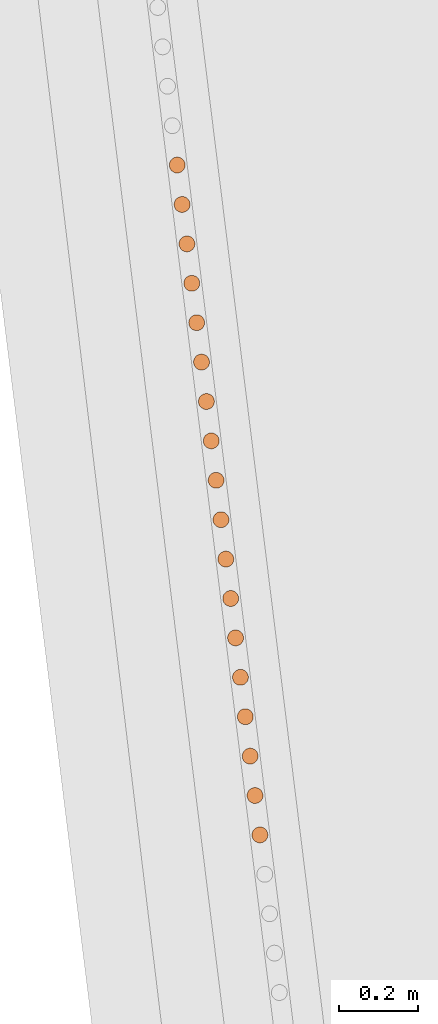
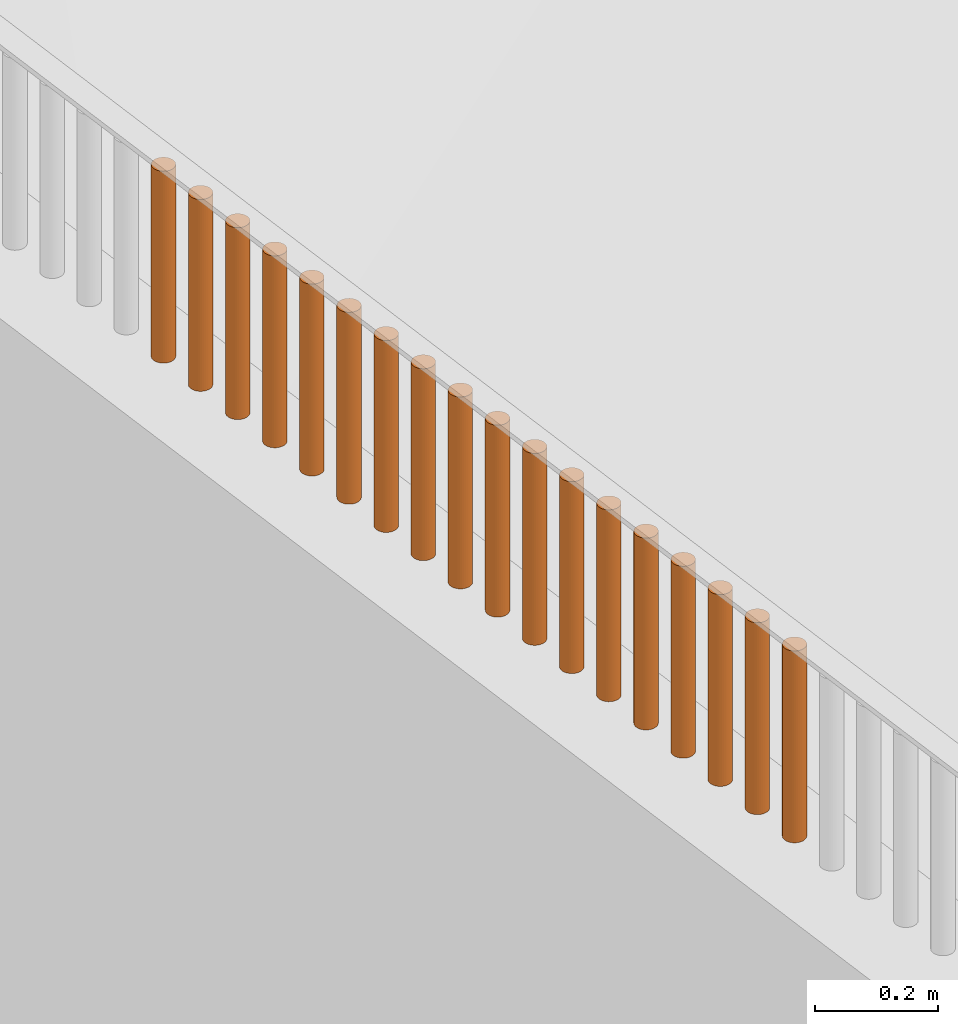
# One storey, part 224 of 1809: 18 proxies, 1 element without a shape of its own.
"""IFC2X3 building model written with IfcOpenShell, lengths in millimetres."""

from ifc_helpers import new_model, entity, si_unit, converted_unit, derived_unit, money_unit, direction, frame, origin_with_axes, place, context, subcontext, project, spatial, faceted_brep, source, transform, mapped, material, type_object, element, aggregate, save


model = new_model("IFC2X3")

# Units and contexts
model_context = context("Model", 3, precision=0.01, world=origin_with_axes(), true_north=direction((0.0, 1.0)))
body_context = subcontext(model_context, "Body", "Model", "MODEL_VIEW")
ifc_project = project(units=[si_unit("LENGTHUNIT", "METRE", prefix="MILLI"), si_unit("AREAUNIT", "SQUARE_METRE"), si_unit("VOLUMEUNIT", "CUBIC_METRE"), converted_unit("PLANEANGLEUNIT", "DEGREE", entity("IfcPlaneAngleMeasure", 0.0174532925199), si_unit("PLANEANGLEUNIT", "RADIAN"), dimensions=[0, 0, 0, 0, 0, 0, 0]), si_unit("SOLIDANGLEUNIT", "STERADIAN"), money_unit("EUR"), converted_unit("TIMEUNIT", "Year", entity("IfcTimeMeasure", 31556926.0), si_unit("TIMEUNIT", "SECOND"), dimensions=[0, 0, 1, 0, 0, 0, 0]), si_unit("MASSUNIT", "GRAM", prefix="KILO"), si_unit("THERMODYNAMICTEMPERATUREUNIT", "DEGREE_CELSIUS"), si_unit("LUMINOUSINTENSITYUNIT", "LUMEN"), si_unit("ENERGYUNIT", "JOULE", prefix="MEGA"), derived_unit("THERMALCONDUCTANCEUNIT", [(si_unit("POWERUNIT", "WATT"), 1), (si_unit("LENGTHUNIT", "METRE"), -1), (si_unit("THERMODYNAMICTEMPERATUREUNIT", "KELVIN"), -1)]), derived_unit("SPECIFICHEATCAPACITYUNIT", [(si_unit("ENERGYUNIT", "JOULE"), 1), (si_unit("MASSUNIT", "GRAM", prefix="KILO"), -1), (si_unit("THERMODYNAMICTEMPERATUREUNIT", "KELVIN"), -1)]), derived_unit("MASSDENSITYUNIT", [(si_unit("MASSUNIT", "GRAM", prefix="KILO"), 1), (si_unit("VOLUMEUNIT", "CUBIC_METRE"), -1)])], contexts=[model_context])

# Site, building, storey
site_placement = place(None, origin_with_axes())
site = spatial("IfcSite", under=ifc_project, at=site_placement, Name="Politse- ja Piirivalveameti ning Päästeameti ühishoone", CompositionType="ELEMENT")
building_placement = place(site_placement, origin_with_axes())
building = spatial("IfcBuilding", under=site, at=building_placement, Name="Politse- ja Piirivalveameti ning Päästeameti ühishoone", CompositionType="ELEMENT")
storey_placement = place(building_placement, origin_with_axes())
storey = spatial("IfcBuildingStorey", under=building, at=storey_placement, Name="Esimene korrus", CompositionType="ELEMENT", Elevation=0.0)

# Proxies
building_element_proxy_type_1 = type_object("IfcBuildingElementProxyType", Name="Railing Type", PredefinedType="NOTDEFINED")
proxy_1_placement = place(storey_placement, frame((-18956.5522504, -53688.4757966, 2100.0), z_axis=(0.0, 0.0, 1.0), x_axis=(1.0, 0.0, 0.0)))
proxy_1 = element("IfcBuildingElementProxy", 1, at=proxy_1_placement, inside=storey, type_object=building_element_proxy_type_1, Name="PIIRDEAED")
ifc_material = material(Name="ET-06_Teras - Konstruktsioon")
building_element_proxy_type_2 = type_object("IfcBuildingElementProxyType", Name="IfcBuildingElementProxy", PredefinedType="NOTDEFINED")
shared_shape_1 = source(origin_with_axes(), body_context, "Body", "Brep", [
    faceted_brep([(0.0, -20.0, 0.0), (3.47296355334, -19.6961550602, 0.0), (3.47296355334, -19.6961550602, 380.000012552), (0.0, -20.0, 380.000012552), (-3.47296355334, -19.6961550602, 0.0), (-6.84040286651, -18.7938524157, 0.0), (-10.0, -17.3205080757, 0.0), (-12.8557521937, -15.3208888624, 0.0), (-15.3208888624, -12.8557521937, 0.0), (-17.3205080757, -10.0, 0.0), (-18.7938524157, -6.84040286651, 0.0), (-19.6961550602, -3.47296355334, 0.0), (-20.0, 0.0, 0.0), (-19.6961550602, 3.47296355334, 0.0), (-18.7938524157, 6.84040286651, 0.0), (-17.3205080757, 10.0, 0.0), (-15.3208888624, 12.8557521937, 0.0), (-12.8557521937, 15.3208888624, 0.0), (-10.0, 17.3205080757, 0.0), (-6.84040286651, 18.7938524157, 0.0), (-3.47296355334, 19.6961550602, 0.0), (0.0, 20.0, 0.0), (3.47296355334, 19.6961550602, 0.0), (6.84040286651, 18.7938524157, 0.0), (10.0, 17.3205080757, 0.0), (12.8557521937, 15.3208888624, 0.0), (15.3208888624, 12.8557521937, 0.0), (17.3205080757, 10.0, 0.0), (18.7938524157, 6.84040286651, 0.0), (19.6961550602, 3.47296355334, 0.0), (20.0, 0.0, 0.0), (19.6961550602, -3.47296355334, 0.0), (18.7938524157, -6.84040286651, 0.0), (17.3205080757, -10.0, 0.0), (15.3208888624, -12.8557521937, 0.0), (12.8557521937, -15.3208888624, 0.0), (10.0, -17.3205080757, 0.0), (6.84040286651, -18.7938524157, 0.0), (6.84040286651, -18.7938524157, 380.000012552), (10.0, -17.3205080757, 380.000012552), (12.8557521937, -15.3208888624, 380.000012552), (15.3208888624, -12.8557521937, 380.000012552), (17.3205080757, -10.0, 380.000012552), (18.7938524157, -6.84040286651, 380.000012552), (19.6961550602, -3.47296355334, 380.000012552), (20.0, 0.0, 380.000012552), (19.6961550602, 3.47296355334, 380.000012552), (18.7938524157, 6.84040286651, 380.000012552), (17.3205080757, 10.0, 380.000012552), (15.3208888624, 12.8557521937, 380.000012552), (12.8557521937, 15.3208888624, 380.000012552), (10.0, 17.3205080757, 380.000012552), (6.84040286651, 18.7938524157, 380.000012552), (3.47296355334, 19.6961550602, 380.000012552), (0.0, 20.0, 380.000012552), (-3.47296355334, 19.6961550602, 380.000012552), (-6.84040286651, 18.7938524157, 380.000012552), (-10.0, 17.3205080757, 380.000012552), (-12.8557521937, 15.3208888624, 380.000012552), (-15.3208888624, 12.8557521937, 380.000012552), (-17.3205080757, 10.0, 380.000012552), (-18.7938524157, 6.84040286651, 380.000012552), (-19.6961550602, 3.47296355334, 380.000012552), (-20.0, 0.0, 380.000012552), (-19.6961550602, -3.47296355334, 380.000012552), (-18.7938524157, -6.84040286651, 380.000012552), (-17.3205080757, -10.0, 380.000012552), (-15.3208888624, -12.8557521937, 380.000012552), (-12.8557521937, -15.3208888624, 380.000012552), (-10.0, -17.3205080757, 380.000012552), (-6.84040286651, -18.7938524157, 380.000012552), (-3.47296355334, -19.6961550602, 380.000012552)], [[[0, 1, 2, 3]], [[0, 4, 5, 6, 7, 8, 9, 10, 11, 12, 13, 14, 15, 16, 17, 18, 19, 20, 21, 22, 23, 24, 25, 26, 27, 28, 29, 30, 31, 32, 33, 34, 35, 36, 37, 1]], [[1, 37, 38, 2]], [[3, 2, 38, 39, 40, 41, 42, 43, 44, 45, 46, 47, 48, 49, 50, 51, 52, 53, 54, 55, 56, 57, 58, 59, 60, 61, 62, 63, 64, 65, 66, 67, 68, 69, 70, 71]], [[4, 0, 3, 71]], [[5, 4, 71, 70]], [[6, 5, 70, 69]], [[7, 6, 69, 68]], [[8, 7, 68, 67]], [[9, 8, 67, 66]], [[10, 9, 66, 65]], [[11, 10, 65, 64]], [[12, 11, 64, 63]], [[13, 12, 63, 62]], [[14, 13, 62, 61]], [[15, 14, 61, 60]], [[16, 15, 60, 59]], [[17, 16, 59, 58]], [[18, 17, 58, 57]], [[19, 18, 57, 56]], [[20, 19, 56, 55]], [[21, 20, 55, 54]], [[22, 21, 54, 53]], [[23, 22, 53, 52]], [[24, 23, 52, 51]], [[25, 24, 51, 50]], [[26, 25, 50, 49]], [[27, 26, 49, 48]], [[28, 27, 48, 47]], [[29, 28, 47, 46]], [[30, 29, 46, 45]], [[31, 30, 45, 44]], [[32, 31, 44, 43]], [[33, 32, 43, 42]], [[34, 33, 42, 41]], [[35, 34, 41, 40]], [[36, 35, 40, 39]], [[37, 36, 39, 38]]]),
])
proxy_2_placement = place(proxy_1_placement, frame((-5175.82038167, 41098.0201867, -1.25517001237e-05), z_axis=(0.0, 0.0, 1.0), x_axis=(1.0, 0.0, 0.0)))
proxy_2 = element("IfcBuildingElementProxy", 2, at=proxy_2_placement, type_object=building_element_proxy_type_2, material=ifc_material, Name="BALUSTER - 001", context=body_context, shape_type="MappedRepresentation", body=[
    mapped(shared_shape_1, transform((0.0, 0.0, 0.0), x_axis=(0.992468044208, 0.122503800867, 0.0), y_axis=(-0.122503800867, 0.992468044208, 0.0), z_axis=(0.0, 0.0, 1.0))),
])
proxy_3_placement = place(proxy_1_placement, frame((-5200.31579149, 41296.4704495, -1.25517001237e-05), z_axis=(0.0, 0.0, 1.0), x_axis=(1.0, 0.0, 0.0)))
proxy_3 = element("IfcBuildingElementProxy", 3, at=proxy_3_placement, type_object=building_element_proxy_type_2, material=ifc_material, Name="BALUSTER - 001", context=body_context, shape_type="MappedRepresentation", body=[
    mapped(shared_shape_1, transform((0.0, 0.0, 0.0), x_axis=(0.992468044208, 0.122503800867, 0.0), y_axis=(-0.122503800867, 0.992468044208, 0.0), z_axis=(0.0, 0.0, 1.0))),
])
proxy_4_placement = place(proxy_1_placement, frame((-5212.56349641, 41395.6955809, -1.25517001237e-05), z_axis=(0.0, 0.0, 1.0), x_axis=(1.0, 0.0, 0.0)))
proxy_4 = element("IfcBuildingElementProxy", 4, at=proxy_4_placement, type_object=building_element_proxy_type_2, material=ifc_material, Name="BALUSTER - 001", context=body_context, shape_type="MappedRepresentation", body=[
    mapped(shared_shape_1, transform((0.0, 0.0, 0.0), x_axis=(0.992468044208, 0.122503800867, 0.0), y_axis=(-0.122503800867, 0.992468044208, 0.0), z_axis=(0.0, 0.0, 1.0))),
])
proxy_5_placement = place(proxy_1_placement, frame((-5224.81120132, 41494.9207124, -1.25517001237e-05), z_axis=(0.0, 0.0, 1.0), x_axis=(1.0, 0.0, 0.0)))
proxy_5 = element("IfcBuildingElementProxy", 5, at=proxy_5_placement, type_object=building_element_proxy_type_2, material=ifc_material, Name="BALUSTER - 001", context=body_context, shape_type="MappedRepresentation", body=[
    mapped(shared_shape_1, transform((0.0, 0.0, 0.0), x_axis=(0.992468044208, 0.122503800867, 0.0), y_axis=(-0.122503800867, 0.992468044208, 0.0), z_axis=(0.0, 0.0, 1.0))),
])
proxy_6_placement = place(proxy_1_placement, frame((-5249.30661115, 41693.3709752, -1.25517001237e-05), z_axis=(0.0, 0.0, 1.0), x_axis=(1.0, 0.0, 0.0)))
proxy_6 = element("IfcBuildingElementProxy", 6, at=proxy_6_placement, type_object=building_element_proxy_type_2, material=ifc_material, Name="BALUSTER - 001", context=body_context, shape_type="MappedRepresentation", body=[
    mapped(shared_shape_1, transform((0.0, 0.0, 0.0), x_axis=(0.992468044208, 0.122503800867, 0.0), y_axis=(-0.122503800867, 0.992468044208, 0.0), z_axis=(0.0, 0.0, 1.0))),
])
proxy_7_placement = place(proxy_1_placement, frame((-5273.80202097, 41891.8212381, -1.25517001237e-05), z_axis=(0.0, 0.0, 1.0), x_axis=(1.0, 0.0, 0.0)))
proxy_7 = element("IfcBuildingElementProxy", 7, at=proxy_7_placement, type_object=building_element_proxy_type_2, material=ifc_material, Name="BALUSTER - 001", context=body_context, shape_type="MappedRepresentation", body=[
    mapped(shared_shape_1, transform((0.0, 0.0, 0.0), x_axis=(0.992468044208, 0.122503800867, 0.0), y_axis=(-0.122503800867, 0.992468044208, 0.0), z_axis=(0.0, 0.0, 1.0))),
])
proxy_8_placement = place(proxy_1_placement, frame((-5298.2974308, 42090.2715009, -1.25517001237e-05), z_axis=(0.0, 0.0, 1.0), x_axis=(1.0, 0.0, 0.0)))
proxy_8 = element("IfcBuildingElementProxy", 8, at=proxy_8_placement, type_object=building_element_proxy_type_2, material=ifc_material, Name="BALUSTER - 001", context=body_context, shape_type="MappedRepresentation", body=[
    mapped(shared_shape_1, transform((0.0, 0.0, 0.0), x_axis=(0.992468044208, 0.122503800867, 0.0), y_axis=(-0.122503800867, 0.992468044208, 0.0), z_axis=(0.0, 0.0, 1.0))),
])
shared_shape_2 = source(origin_with_axes(), body_context, "Body", "Brep", [
    faceted_brep([(0.0, -20.0, 0.0), (3.47296355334, -19.6961550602, 0.0), (3.47296355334, -19.6961550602, 380.000012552), (0.0, -20.0, 380.000012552), (-3.47296355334, -19.6961550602, 0.0), (-6.84040286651, -18.7938524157, 0.0), (-10.0, -17.3205080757, 0.0), (-12.8557521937, -15.3208888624, 0.0), (-15.3208888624, -12.8557521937, 0.0), (-17.3205080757, -10.0, 0.0), (-18.7938524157, -6.84040286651, 0.0), (-19.6961550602, -3.47296355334, 0.0), (-20.0, 0.0, 0.0), (-19.6961550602, 3.47296355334, 0.0), (-18.7938524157, 6.84040286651, 0.0), (-17.3205080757, 10.0, 0.0), (-15.3208888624, 12.8557521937, 0.0), (-12.8557521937, 15.3208888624, 0.0), (-10.0, 17.3205080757, 0.0), (-6.84040286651, 18.7938524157, 0.0), (-3.47296355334, 19.6961550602, 0.0), (0.0, 20.0, 0.0), (3.47296355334, 19.6961550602, 0.0), (6.84040286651, 18.7938524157, 0.0), (10.0, 17.3205080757, 0.0), (12.8557521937, 15.3208888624, 0.0), (15.3208888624, 12.8557521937, 0.0), (17.3205080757, 10.0, 0.0), (18.7938524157, 6.84040286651, 0.0), (19.6961550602, 3.47296355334, 0.0), (20.0, 0.0, 0.0), (19.6961550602, -3.47296355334, 0.0), (18.7938524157, -6.84040286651, 0.0), (17.3205080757, -10.0, 0.0), (15.3208888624, -12.8557521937, 0.0), (12.8557521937, -15.3208888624, 0.0), (10.0, -17.3205080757, 0.0), (6.84040286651, -18.7938524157, 0.0), (6.84040286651, -18.7938524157, 380.000012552), (10.0, -17.3205080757, 380.000012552), (12.8557521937, -15.3208888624, 380.000012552), (15.3208888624, -12.8557521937, 380.000012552), (17.3205080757, -10.0, 380.000012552), (18.7938524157, -6.84040286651, 380.000012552), (19.6961550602, -3.47296355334, 380.000012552), (20.0, 0.0, 380.000012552), (19.6961550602, 3.47296355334, 380.000012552), (18.7938524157, 6.84040286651, 380.000012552), (17.3205080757, 10.0, 380.000012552), (15.3208888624, 12.8557521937, 380.000012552), (12.8557521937, 15.3208888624, 380.000012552), (10.0, 17.3205080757, 380.000012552), (6.84040286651, 18.7938524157, 380.000012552), (3.47296355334, 19.6961550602, 380.000012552), (0.0, 20.0, 380.000012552), (-3.47296355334, 19.6961550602, 380.000012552), (-6.84040286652, 18.7938524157, 380.000012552), (-10.0, 17.3205080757, 380.000012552), (-12.8557521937, 15.3208888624, 380.000012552), (-15.3208888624, 12.8557521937, 380.000012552), (-17.3205080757, 10.0, 380.000012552), (-18.7938524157, 6.84040286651, 380.000012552), (-19.6961550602, 3.47296355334, 380.000012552), (-20.0, 0.0, 380.000012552), (-19.6961550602, -3.47296355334, 380.000012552), (-18.7938524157, -6.84040286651, 380.000012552), (-17.3205080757, -10.0, 380.000012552), (-15.3208888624, -12.8557521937, 380.000012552), (-12.8557521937, -15.3208888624, 380.000012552), (-10.0, -17.3205080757, 380.000012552), (-6.84040286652, -18.7938524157, 380.000012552), (-3.47296355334, -19.6961550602, 380.000012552)], [[[0, 1, 2, 3]], [[0, 4, 5, 6, 7, 8, 9, 10, 11, 12, 13, 14, 15, 16, 17, 18, 19, 20, 21, 22, 23, 24, 25, 26, 27, 28, 29, 30, 31, 32, 33, 34, 35, 36, 37, 1]], [[1, 37, 38, 2]], [[3, 2, 38, 39, 40, 41, 42, 43, 44, 45, 46, 47, 48, 49, 50, 51, 52, 53, 54, 55, 56, 57, 58, 59, 60, 61, 62, 63, 64, 65, 66, 67, 68, 69, 70, 71]], [[4, 0, 3, 71]], [[5, 4, 71, 70]], [[6, 5, 70, 69]], [[7, 6, 69, 68]], [[8, 7, 68, 67]], [[9, 8, 67, 66]], [[10, 9, 66, 65]], [[11, 10, 65, 64]], [[12, 11, 64, 63]], [[13, 12, 63, 62]], [[14, 13, 62, 61]], [[15, 14, 61, 60]], [[16, 15, 60, 59]], [[17, 16, 59, 58]], [[18, 17, 58, 57]], [[19, 18, 57, 56]], [[20, 19, 56, 55]], [[21, 20, 55, 54]], [[22, 21, 54, 53]], [[23, 22, 53, 52]], [[24, 23, 52, 51]], [[25, 24, 51, 50]], [[26, 25, 50, 49]], [[27, 26, 49, 48]], [[28, 27, 48, 47]], [[29, 28, 47, 46]], [[30, 29, 46, 45]], [[31, 30, 45, 44]], [[32, 31, 44, 43]], [[33, 32, 43, 42]], [[34, 33, 42, 41]], [[35, 34, 41, 40]], [[36, 35, 40, 39]], [[37, 36, 39, 38]]]),
])
proxy_9_placement = place(proxy_1_placement, frame((-5102.33415219, 40502.6693981, -1.25517001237e-05), z_axis=(0.0, 0.0, 1.0), x_axis=(1.0, 0.0, 0.0)))
proxy_9 = element("IfcBuildingElementProxy", 9, at=proxy_9_placement, type_object=building_element_proxy_type_2, material=ifc_material, Name="BALUSTER - 001", context=body_context, shape_type="MappedRepresentation", body=[
    mapped(shared_shape_2, transform((0.0, 0.0, 0.0), x_axis=(0.992468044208, 0.122503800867, 0.0), y_axis=(-0.122503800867, 0.992468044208, 0.0), z_axis=(0.0, 0.0, 1.0))),
])
proxy_10_placement = place(proxy_1_placement, frame((-5151.32497184, 40899.5699238, -1.25517001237e-05), z_axis=(0.0, 0.0, 1.0), x_axis=(1.0, 0.0, 0.0)))
proxy_10 = element("IfcBuildingElementProxy", 10, at=proxy_10_placement, type_object=building_element_proxy_type_2, material=ifc_material, Name="BALUSTER - 001", context=body_context, shape_type="MappedRepresentation", body=[
    mapped(shared_shape_2, transform((0.0, 0.0, 0.0), x_axis=(0.992468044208, 0.122503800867, 0.0), y_axis=(-0.122503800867, 0.992468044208, 0.0), z_axis=(0.0, 0.0, 1.0))),
])
proxy_11_placement = place(proxy_1_placement, frame((-5237.05890623, 41594.1458438, -1.25517001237e-05), z_axis=(0.0, 0.0, 1.0), x_axis=(1.0, 0.0, 0.0)))
proxy_11 = element("IfcBuildingElementProxy", 11, at=proxy_11_placement, type_object=building_element_proxy_type_2, material=ifc_material, Name="BALUSTER - 001", context=body_context, shape_type="MappedRepresentation", body=[
    mapped(shared_shape_2, transform((0.0, 0.0, 0.0), x_axis=(0.992468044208, 0.122503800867, 0.0), y_axis=(-0.122503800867, 0.992468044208, 0.0), z_axis=(0.0, 0.0, 1.0))),
])
proxy_12_placement = place(proxy_1_placement, frame((-5286.04972589, 41991.0463695, -1.25517001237e-05), z_axis=(0.0, 0.0, 1.0), x_axis=(1.0, 0.0, 0.0)))
proxy_12 = element("IfcBuildingElementProxy", 12, at=proxy_12_placement, type_object=building_element_proxy_type_2, material=ifc_material, Name="BALUSTER - 001", context=body_context, shape_type="MappedRepresentation", body=[
    mapped(shared_shape_2, transform((0.0, 0.0, 0.0), x_axis=(0.992468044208, 0.122503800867, 0.0), y_axis=(-0.122503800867, 0.992468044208, 0.0), z_axis=(0.0, 0.0, 1.0))),
])
shared_shape_3 = source(origin_with_axes(), body_context, "Body", "Brep", [
    faceted_brep([(0.0, -20.0, 0.0), (3.47296355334, -19.6961550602, 0.0), (3.47296355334, -19.6961550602, 380.000012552), (0.0, -20.0, 380.000012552), (-3.47296355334, -19.6961550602, 0.0), (-6.84040286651, -18.7938524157, 0.0), (-10.0, -17.3205080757, 0.0), (-12.8557521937, -15.3208888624, 0.0), (-15.3208888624, -12.8557521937, 0.0), (-17.3205080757, -10.0, 0.0), (-18.7938524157, -6.84040286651, 0.0), (-19.6961550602, -3.47296355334, 0.0), (-20.0, 0.0, 0.0), (-19.6961550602, 3.47296355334, 0.0), (-18.7938524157, 6.84040286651, 0.0), (-17.3205080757, 10.0, 0.0), (-15.3208888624, 12.8557521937, 0.0), (-12.8557521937, 15.3208888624, 0.0), (-10.0, 17.3205080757, 0.0), (-6.84040286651, 18.7938524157, 0.0), (-3.47296355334, 19.6961550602, 0.0), (0.0, 20.0, 0.0), (3.47296355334, 19.6961550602, 0.0), (6.84040286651, 18.7938524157, 0.0), (10.0, 17.3205080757, 0.0), (12.8557521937, 15.3208888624, 0.0), (15.3208888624, 12.8557521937, 0.0), (17.3205080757, 10.0, 0.0), (18.7938524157, 6.84040286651, 0.0), (19.6961550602, 3.47296355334, 0.0), (20.0, 0.0, 0.0), (19.6961550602, -3.47296355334, 0.0), (18.7938524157, -6.84040286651, 0.0), (17.3205080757, -10.0, 0.0), (15.3208888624, -12.8557521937, 0.0), (12.8557521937, -15.3208888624, 0.0), (10.0, -17.3205080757, 0.0), (6.84040286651, -18.7938524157, 0.0), (6.84040286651, -18.7938524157, 380.000012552), (10.0, -17.3205080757, 380.000012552), (12.8557521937, -15.3208888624, 380.000012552), (15.3208888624, -12.8557521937, 380.000012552), (17.3205080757, -10.0, 380.000012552), (18.7938524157, -6.84040286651, 380.000012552), (19.6961550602, -3.47296355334, 380.000012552), (20.0, 0.0, 380.000012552), (19.6961550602, 3.47296355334, 380.000012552), (18.7938524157, 6.84040286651, 380.000012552), (17.3205080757, 10.0, 380.000012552), (15.3208888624, 12.8557521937, 380.000012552), (12.8557521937, 15.3208888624, 380.000012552), (10.0, 17.3205080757, 380.000012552), (6.84040286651, 18.7938524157, 380.000012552), (3.47296355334, 19.6961550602, 380.000012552), (0.0, 20.0, 380.000012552), (-3.47296355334, 19.6961550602, 380.000012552), (-6.84040286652, 18.7938524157, 380.000012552), (-10.0, 17.3205080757, 380.000012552), (-12.8557521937, 15.3208888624, 380.000012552), (-15.3208888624, 12.8557521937, 380.000012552), (-17.3205080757, 10.0, 380.000012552), (-18.7938524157, 6.84040286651, 380.000012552), (-19.6961550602, 3.47296355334, 380.000012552), (-20.0, 0.0, 380.000012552), (-19.6961550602, -3.47296355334, 380.000012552), (-18.7938524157, -6.84040286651, 380.000012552), (-17.3205080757, -10.0, 380.000012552), (-15.3208888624, -12.8557521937, 380.000012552), (-12.8557521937, -15.3208888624, 380.000012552), (-10.0, -17.3205080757, 380.000012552), (-6.84040286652, -18.7938524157, 380.000012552), (-3.47296355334, -19.6961550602, 380.000012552)], [[[0, 1, 2, 3]], [[0, 4, 5, 6, 7, 8, 9, 10, 11, 12, 13, 14, 15, 16, 17, 18, 19, 20, 21, 22, 23, 24, 25, 26, 27, 28, 29, 30, 31, 32, 33, 34, 35, 36, 37, 1]], [[1, 37, 38, 2]], [[3, 2, 38, 39, 40, 41, 42, 43, 44, 45, 46, 47, 48, 49, 50, 51, 52, 53, 54, 55, 56, 57, 58, 59, 60, 61, 62, 63, 64, 65, 66, 67, 68, 69, 70, 71]], [[4, 0, 3, 71]], [[5, 4, 71, 70]], [[6, 5, 70, 69]], [[7, 6, 69, 68]], [[8, 7, 68, 67]], [[9, 8, 67, 66]], [[10, 9, 66, 65]], [[11, 10, 65, 64]], [[12, 11, 64, 63]], [[13, 12, 63, 62]], [[14, 13, 62, 61]], [[15, 14, 61, 60]], [[16, 15, 60, 59]], [[17, 16, 59, 58]], [[18, 17, 58, 57]], [[19, 18, 57, 56]], [[20, 19, 56, 55]], [[21, 20, 55, 54]], [[22, 21, 54, 53]], [[23, 22, 53, 52]], [[24, 23, 52, 51]], [[25, 24, 51, 50]], [[26, 25, 50, 49]], [[27, 26, 49, 48]], [[28, 27, 48, 47]], [[29, 28, 47, 46]], [[30, 29, 46, 45]], [[31, 30, 45, 44]], [[32, 31, 44, 43]], [[33, 32, 43, 42]], [[34, 33, 42, 41]], [[35, 34, 41, 40]], [[36, 35, 40, 39]], [[37, 36, 39, 38]]]),
])
proxy_13_placement = place(proxy_1_placement, frame((-5188.06808658, 41197.2453181, -1.25517001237e-05), z_axis=(0.0, 0.0, 1.0), x_axis=(1.0, 0.0, 0.0)))
proxy_13 = element("IfcBuildingElementProxy", 13, at=proxy_13_placement, type_object=building_element_proxy_type_2, material=ifc_material, Name="BALUSTER - 001", context=body_context, shape_type="MappedRepresentation", body=[
    mapped(shared_shape_3, transform((0.0, 0.0, 0.0), x_axis=(0.992468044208, 0.122503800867, 0.0), y_axis=(-0.122503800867, 0.992468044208, 0.0), z_axis=(0.0, 0.0, 1.0))),
])
shared_shape_4 = source(origin_with_axes(), body_context, "Body", "Brep", [
    faceted_brep([(0.0, -20.0, 0.0), (3.47296355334, -19.6961550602, 0.0), (3.47296355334, -19.6961550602, 380.000012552), (0.0, -20.0, 380.000012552), (-3.47296355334, -19.6961550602, 0.0), (-6.84040286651, -18.7938524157, 0.0), (-10.0, -17.3205080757, 0.0), (-12.8557521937, -15.3208888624, 0.0), (-15.3208888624, -12.8557521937, 0.0), (-17.3205080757, -10.0, 0.0), (-18.7938524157, -6.84040286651, 0.0), (-19.6961550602, -3.47296355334, 0.0), (-20.0, 0.0, 0.0), (-19.6961550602, 3.47296355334, 0.0), (-18.7938524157, 6.84040286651, 0.0), (-17.3205080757, 10.0, 0.0), (-15.3208888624, 12.8557521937, 0.0), (-12.8557521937, 15.3208888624, 0.0), (-10.0, 17.3205080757, 0.0), (-6.84040286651, 18.7938524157, 0.0), (-3.47296355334, 19.6961550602, 0.0), (0.0, 20.0, 0.0), (3.47296355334, 19.6961550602, 0.0), (6.84040286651, 18.7938524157, 0.0), (10.0, 17.3205080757, 0.0), (12.8557521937, 15.3208888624, 0.0), (15.3208888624, 12.8557521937, 0.0), (17.3205080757, 10.0, 0.0), (18.7938524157, 6.84040286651, 0.0), (19.6961550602, 3.47296355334, 0.0), (20.0, 0.0, 0.0), (19.6961550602, -3.47296355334, 0.0), (18.7938524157, -6.84040286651, 0.0), (17.3205080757, -10.0, 0.0), (15.3208888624, -12.8557521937, 0.0), (12.8557521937, -15.3208888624, 0.0), (10.0, -17.3205080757, 0.0), (6.84040286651, -18.7938524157, 0.0), (6.84040286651, -18.7938524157, 380.000012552), (10.0, -17.3205080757, 380.000012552), (12.8557521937, -15.3208888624, 380.000012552), (15.3208888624, -12.8557521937, 380.000012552), (17.3205080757, -10.0, 380.000012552), (18.7938524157, -6.84040286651, 380.000012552), (19.6961550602, -3.47296355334, 380.000012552), (20.0, 0.0, 380.000012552), (19.6961550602, 3.47296355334, 380.000012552), (18.7938524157, 6.84040286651, 380.000012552), (17.3205080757, 10.0, 380.000012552), (15.3208888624, 12.8557521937, 380.000012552), (12.8557521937, 15.3208888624, 380.000012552), (10.0, 17.3205080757, 380.000012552), (6.84040286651, 18.7938524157, 380.000012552), (3.47296355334, 19.6961550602, 380.000012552), (0.0, 20.0, 380.000012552), (-3.47296355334, 19.6961550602, 380.000012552), (-6.84040286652, 18.7938524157, 380.000012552), (-10.0, 17.3205080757, 380.000012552), (-12.8557521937, 15.3208888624, 380.000012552), (-15.3208888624, 12.8557521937, 380.000012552), (-17.3205080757, 10.0, 380.000012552), (-18.7938524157, 6.84040286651, 380.000012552), (-19.6961550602, 3.47296355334, 380.000012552), (-20.0, 0.0, 380.000012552), (-19.6961550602, -3.47296355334, 380.000012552), (-18.7938524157, -6.84040286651, 380.000012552), (-17.3205080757, -10.0, 380.000012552), (-15.3208888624, -12.8557521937, 380.000012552), (-12.8557521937, -15.3208888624, 380.000012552), (-10.0, -17.3205080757, 380.000012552), (-6.84040286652, -18.7938524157, 380.000012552), (-3.47296355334, -19.6961550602, 380.000012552)], [[[0, 1, 2, 3]], [[0, 4, 5, 6, 7, 8, 9, 10, 11, 12, 13, 14, 15, 16, 17, 18, 19, 20, 21, 22, 23, 24, 25, 26, 27, 28, 29, 30, 31, 32, 33, 34, 35, 36, 37, 1]], [[1, 37, 38, 2]], [[3, 2, 38, 39, 40, 41, 42, 43, 44, 45, 46, 47, 48, 49, 50, 51, 52, 53, 54, 55, 56, 57, 58, 59, 60, 61, 62, 63, 64, 65, 66, 67, 68, 69, 70, 71]], [[4, 0, 3, 71]], [[5, 4, 71, 70]], [[6, 5, 70, 69]], [[7, 6, 69, 68]], [[8, 7, 68, 67]], [[9, 8, 67, 66]], [[10, 9, 66, 65]], [[11, 10, 65, 64]], [[12, 11, 64, 63]], [[13, 12, 63, 62]], [[14, 13, 62, 61]], [[15, 14, 61, 60]], [[16, 15, 60, 59]], [[17, 16, 59, 58]], [[18, 17, 58, 57]], [[19, 18, 57, 56]], [[20, 19, 56, 55]], [[21, 20, 55, 54]], [[22, 21, 54, 53]], [[23, 22, 53, 52]], [[24, 23, 52, 51]], [[25, 24, 51, 50]], [[26, 25, 50, 49]], [[27, 26, 49, 48]], [[28, 27, 48, 47]], [[29, 28, 47, 46]], [[30, 29, 46, 45]], [[31, 30, 45, 44]], [[32, 31, 44, 43]], [[33, 32, 43, 42]], [[34, 33, 42, 41]], [[35, 34, 41, 40]], [[36, 35, 40, 39]], [[37, 36, 39, 38]]]),
])
proxy_14_placement = place(proxy_1_placement, frame((-5114.5818571, 40601.8945295, -1.25517001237e-05), z_axis=(0.0, 0.0, 1.0), x_axis=(1.0, 0.0, 0.0)))
proxy_14 = element("IfcBuildingElementProxy", 14, at=proxy_14_placement, type_object=building_element_proxy_type_2, material=ifc_material, Name="BALUSTER - 001", context=body_context, shape_type="MappedRepresentation", body=[
    mapped(shared_shape_4, transform((0.0, 0.0, 0.0), x_axis=(0.992468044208, 0.122503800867, 0.0), y_axis=(-0.122503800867, 0.992468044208, 0.0), z_axis=(0.0, 0.0, 1.0))),
])
proxy_15_placement = place(proxy_1_placement, frame((-5126.82956202, 40701.119661, -1.25517001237e-05), z_axis=(0.0, 0.0, 1.0), x_axis=(1.0, 0.0, 0.0)))
proxy_15 = element("IfcBuildingElementProxy", 15, at=proxy_15_placement, type_object=building_element_proxy_type_2, material=ifc_material, Name="BALUSTER - 001", context=body_context, shape_type="MappedRepresentation", body=[
    mapped(shared_shape_4, transform((0.0, 0.0, 0.0), x_axis=(0.992468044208, 0.122503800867, 0.0), y_axis=(-0.122503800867, 0.992468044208, 0.0), z_axis=(0.0, 0.0, 1.0))),
])
proxy_16_placement = place(proxy_1_placement, frame((-5139.07726693, 40800.3447924, -1.25517001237e-05), z_axis=(0.0, 0.0, 1.0), x_axis=(1.0, 0.0, 0.0)))
proxy_16 = element("IfcBuildingElementProxy", 16, at=proxy_16_placement, type_object=building_element_proxy_type_2, material=ifc_material, Name="BALUSTER - 001", context=body_context, shape_type="MappedRepresentation", body=[
    mapped(shared_shape_4, transform((0.0, 0.0, 0.0), x_axis=(0.992468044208, 0.122503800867, 0.0), y_axis=(-0.122503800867, 0.992468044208, 0.0), z_axis=(0.0, 0.0, 1.0))),
])
proxy_17_placement = place(proxy_1_placement, frame((-5163.57267675, 40998.7950552, -1.25517001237e-05), z_axis=(0.0, 0.0, 1.0), x_axis=(1.0, 0.0, 0.0)))
proxy_17 = element("IfcBuildingElementProxy", 17, at=proxy_17_placement, type_object=building_element_proxy_type_2, material=ifc_material, Name="BALUSTER - 001", context=body_context, shape_type="MappedRepresentation", body=[
    mapped(shared_shape_4, transform((0.0, 0.0, 0.0), x_axis=(0.992468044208, 0.122503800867, 0.0), y_axis=(-0.122503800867, 0.992468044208, 0.0), z_axis=(0.0, 0.0, 1.0))),
])
proxy_18_placement = place(proxy_1_placement, frame((-5261.55431606, 41792.5961066, -1.25517001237e-05), z_axis=(0.0, 0.0, 1.0), x_axis=(1.0, 0.0, 0.0)))
proxy_18 = element("IfcBuildingElementProxy", 18, at=proxy_18_placement, type_object=building_element_proxy_type_2, material=ifc_material, Name="BALUSTER - 001", context=body_context, shape_type="MappedRepresentation", body=[
    mapped(shared_shape_4, transform((0.0, 0.0, 0.0), x_axis=(0.992468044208, 0.122503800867, 0.0), y_axis=(-0.122503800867, 0.992468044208, 0.0), z_axis=(0.0, 0.0, 1.0))),
])
shared_shape_5 = source(origin_with_axes(), body_context, "Body", "Brep", [
    faceted_brep([(0.0, -20.0, 0.0), (3.47296355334, -19.6961550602, 0.0), (3.47296355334, -19.6961550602, 380.000012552), (0.0, -20.0, 380.000012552), (-3.47296355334, -19.6961550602, 0.0), (-6.84040286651, -18.7938524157, 0.0), (-10.0, -17.3205080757, 0.0), (-12.8557521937, -15.3208888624, 0.0), (-15.3208888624, -12.8557521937, 0.0), (-17.3205080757, -10.0, 0.0), (-18.7938524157, -6.84040286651, 0.0), (-19.6961550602, -3.47296355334, 0.0), (-20.0, 0.0, 0.0), (-19.6961550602, 3.47296355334, 0.0), (-18.7938524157, 6.84040286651, 0.0), (-17.3205080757, 10.0, 0.0), (-15.3208888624, 12.8557521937, 0.0), (-12.8557521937, 15.3208888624, 0.0), (-10.0, 17.3205080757, 0.0), (-6.84040286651, 18.7938524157, 0.0), (-3.47296355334, 19.6961550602, 0.0), (0.0, 20.0, 0.0), (3.47296355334, 19.6961550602, 0.0), (6.84040286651, 18.7938524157, 0.0), (10.0, 17.3205080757, 0.0), (12.8557521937, 15.3208888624, 0.0), (15.3208888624, 12.8557521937, 0.0), (17.3205080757, 10.0, 0.0), (18.7938524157, 6.84040286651, 0.0), (19.6961550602, 3.47296355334, 0.0), (20.0, 0.0, 0.0), (19.6961550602, -3.47296355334, 0.0), (18.7938524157, -6.84040286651, 0.0), (17.3205080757, -10.0, 0.0), (15.3208888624, -12.8557521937, 0.0), (12.8557521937, -15.3208888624, 0.0), (10.0, -17.3205080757, 0.0), (6.84040286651, -18.7938524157, 0.0), (6.84040286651, -18.7938524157, 380.000012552), (10.0, -17.3205080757, 380.000012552), (12.8557521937, -15.3208888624, 380.000012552), (15.3208888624, -12.8557521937, 380.000012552), (17.3205080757, -10.0, 380.000012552), (18.7938524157, -6.84040286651, 380.000012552), (19.6961550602, -3.47296355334, 380.000012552), (20.0, 0.0, 380.000012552), (19.6961550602, 3.47296355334, 380.000012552), (18.7938524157, 6.84040286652, 380.000012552), (17.3205080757, 10.0, 380.000012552), (15.3208888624, 12.8557521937, 380.000012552), (12.8557521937, 15.3208888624, 380.000012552), (10.0, 17.3205080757, 380.000012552), (6.84040286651, 18.7938524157, 380.000012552), (3.47296355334, 19.6961550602, 380.000012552), (0.0, 20.0, 380.000012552), (-3.47296355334, 19.6961550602, 380.000012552), (-6.84040286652, 18.7938524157, 380.000012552), (-10.0, 17.3205080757, 380.000012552), (-12.8557521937, 15.3208888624, 380.000012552), (-15.3208888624, 12.8557521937, 380.000012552), (-17.3205080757, 10.0, 380.000012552), (-18.7938524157, 6.84040286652, 380.000012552), (-19.6961550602, 3.47296355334, 380.000012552), (-20.0, 0.0, 380.000012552), (-19.6961550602, -3.47296355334, 380.000012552), (-18.7938524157, -6.84040286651, 380.000012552), (-17.3205080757, -10.0, 380.000012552), (-15.3208888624, -12.8557521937, 380.000012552), (-12.8557521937, -15.3208888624, 380.000012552), (-10.0, -17.3205080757, 380.000012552), (-6.84040286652, -18.7938524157, 380.000012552), (-3.47296355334, -19.6961550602, 380.000012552)], [[[0, 1, 2, 3]], [[0, 4, 5, 6, 7, 8, 9, 10, 11, 12, 13, 14, 15, 16, 17, 18, 19, 20, 21, 22, 23, 24, 25, 26, 27, 28, 29, 30, 31, 32, 33, 34, 35, 36, 37, 1]], [[1, 37, 38, 2]], [[3, 2, 38, 39, 40, 41, 42, 43, 44, 45, 46, 47, 48, 49, 50, 51, 52, 53, 54, 55, 56, 57, 58, 59, 60, 61, 62, 63, 64, 65, 66, 67, 68, 69, 70, 71]], [[4, 0, 3, 71]], [[5, 4, 71, 70]], [[6, 5, 70, 69]], [[7, 6, 69, 68]], [[8, 7, 68, 67]], [[9, 8, 67, 66]], [[10, 9, 66, 65]], [[11, 10, 65, 64]], [[12, 11, 64, 63]], [[13, 12, 63, 62]], [[14, 13, 62, 61]], [[15, 14, 61, 60]], [[16, 15, 60, 59]], [[17, 16, 59, 58]], [[18, 17, 58, 57]], [[19, 18, 57, 56]], [[20, 19, 56, 55]], [[21, 20, 55, 54]], [[22, 21, 54, 53]], [[23, 22, 53, 52]], [[24, 23, 52, 51]], [[25, 24, 51, 50]], [[26, 25, 50, 49]], [[27, 26, 49, 48]], [[28, 27, 48, 47]], [[29, 28, 47, 46]], [[30, 29, 46, 45]], [[31, 30, 45, 44]], [[32, 31, 44, 43]], [[33, 32, 43, 42]], [[34, 33, 42, 41]], [[35, 34, 41, 40]], [[36, 35, 40, 39]], [[37, 36, 39, 38]]]),
])
proxy_19_placement = place(proxy_1_placement, frame((-5310.54513571, 42189.4966323, -1.25517001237e-05), z_axis=(0.0, 0.0, 1.0), x_axis=(1.0, 0.0, 0.0)))
proxy_19 = element("IfcBuildingElementProxy", 19, at=proxy_19_placement, type_object=building_element_proxy_type_2, material=ifc_material, Name="BALUSTER - 001", context=body_context, shape_type="MappedRepresentation", body=[
    mapped(shared_shape_5, transform((0.0, 0.0, 0.0), x_axis=(0.992468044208, 0.122503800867, 0.0), y_axis=(-0.122503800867, 0.992468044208, 0.0), z_axis=(0.0, 0.0, 1.0))),
])
aggregate(proxy_1, [proxy_9, proxy_14, proxy_15, proxy_16, proxy_10, proxy_17, proxy_2, proxy_13, proxy_3, proxy_4, proxy_5, proxy_11, proxy_6, proxy_18, proxy_7, proxy_12, proxy_8, proxy_19])

save(model, "model.ifc")
